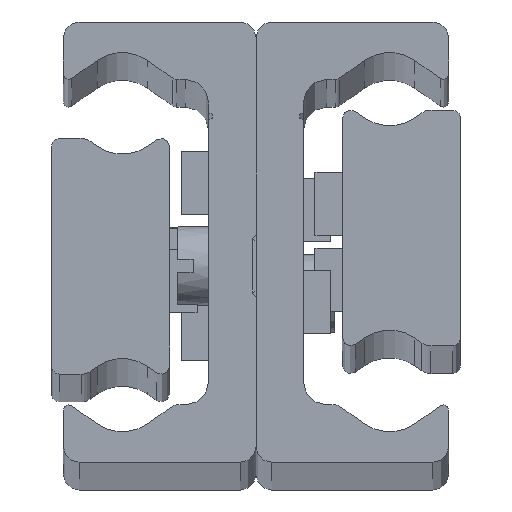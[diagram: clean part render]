
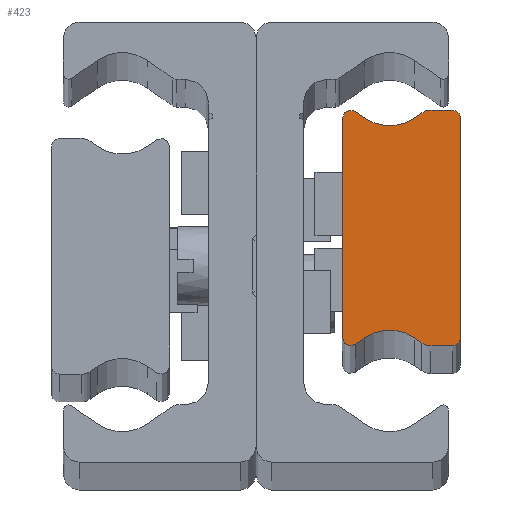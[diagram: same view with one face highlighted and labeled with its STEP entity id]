
A CAD part, top view. The second image highlights one B-rep face of the part: STEP entity #423.
In plain terms, the highlighted planar face has unit normal (0, 0, 1) as drawn and (0, 0, -1) by its records, which use the part's own axes.
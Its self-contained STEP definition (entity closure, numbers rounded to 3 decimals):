
#423 = ADVANCED_FACE( '', ( #995 ), #996, .F. );
#995 = FACE_OUTER_BOUND( '', #1693, .T. );
#996 = PLANE( '', #1694 );
#1693 = EDGE_LOOP( '', ( #2679, #2680, #2681, #2682, #2683, #2684, #2685, #2686, #2687, #2688, #2689, #2690, #2691, #2692, #2693, #2694 ) );
#1694 = AXIS2_PLACEMENT_3D( '', #2695, #2696, #2697 );
#2679 = ORIENTED_EDGE( '', *, *, #3759, .F. );
#2680 = ORIENTED_EDGE( '', *, *, #3833, .F. );
#2681 = ORIENTED_EDGE( '', *, *, #3845, .F. );
#2682 = ORIENTED_EDGE( '', *, *, #3686, .F. );
#2683 = ORIENTED_EDGE( '', *, *, #3846, .F. );
#2684 = ORIENTED_EDGE( '', *, *, #3847, .T. );
#2685 = ORIENTED_EDGE( '', *, *, #3535, .F. );
#2686 = ORIENTED_EDGE( '', *, *, #3848, .F. );
#2687 = ORIENTED_EDGE( '', *, *, #3627, .F. );
#2688 = ORIENTED_EDGE( '', *, *, #3849, .F. );
#2689 = ORIENTED_EDGE( '', *, *, #3850, .F. );
#2690 = ORIENTED_EDGE( '', *, *, #3654, .T. );
#2691 = ORIENTED_EDGE( '', *, *, #3851, .F. );
#2692 = ORIENTED_EDGE( '', *, *, #3852, .F. );
#2693 = ORIENTED_EDGE( '', *, *, #3586, .F. );
#2694 = ORIENTED_EDGE( '', *, *, #3853, .F. );
#2695 = CARTESIAN_POINT( '', ( 0.5, -7., -1010. ) );
#2696 = DIRECTION( '', ( 0., 0., 1. ) );
#2697 = DIRECTION( '', ( 1., 0., 0. ) );
#3535 = EDGE_CURVE( '', #4091, #4093, #4094, .T. );
#3586 = EDGE_CURVE( '', #4179, #4181, #4182, .T. );
#3627 = EDGE_CURVE( '', #4252, #4254, #4255, .T. );
#3654 = EDGE_CURVE( '', #4301, #4299, #4302, .T. );
#3686 = EDGE_CURVE( '', #4354, #4356, #4357, .T. );
#3759 = EDGE_CURVE( '', #4481, #4483, #4484, .T. );
#3833 = EDGE_CURVE( '', #4599, #4481, #4601, .T. );
#3845 = EDGE_CURVE( '', #4356, #4599, #4616, .T. );
#3846 = EDGE_CURVE( '', #4617, #4354, #4618, .T. );
#3847 = EDGE_CURVE( '', #4617, #4093, #4619, .T. );
#3848 = EDGE_CURVE( '', #4254, #4091, #4620, .T. );
#3849 = EDGE_CURVE( '', #4621, #4252, #4622, .T. );
#3850 = EDGE_CURVE( '', #4301, #4621, #4623, .T. );
#3851 = EDGE_CURVE( '', #4624, #4299, #4625, .T. );
#3852 = EDGE_CURVE( '', #4181, #4624, #4626, .T. );
#3853 = EDGE_CURVE( '', #4483, #4179, #4627, .T. );
#4091 = VERTEX_POINT( '', #4923 );
#4093 = VERTEX_POINT( '', #4926 );
#4094 = LINE( '', #4927, #4928 );
#4179 = VERTEX_POINT( '', #5032 );
#4181 = VERTEX_POINT( '', #5035 );
#4182 = LINE( '', #5036, #5037 );
#4252 = VERTEX_POINT( '', #5119 );
#4254 = VERTEX_POINT( '', #5122 );
#4255 = LINE( '', #5123, #5124 );
#4299 = VERTEX_POINT( '', #5183 );
#4301 = VERTEX_POINT( '', #5186 );
#4302 = CIRCLE( '', #5187, 2.778 );
#4354 = VERTEX_POINT( '', #5251 );
#4356 = VERTEX_POINT( '', #5254 );
#4357 = CIRCLE( '', #5255, 1. );
#4481 = VERTEX_POINT( '', #5399 );
#4483 = VERTEX_POINT( '', #5402 );
#4484 = LINE( '', #5403, #5404 );
#4599 = VERTEX_POINT( '', #5544 );
#4601 = CIRCLE( '', #5547, 0.5 );
#4616 = LINE( '', #5563, #5564 );
#4617 = VERTEX_POINT( '', #5565 );
#4618 = LINE( '', #5566, #5567 );
#4619 = CIRCLE( '', #5568, 2.778 );
#4620 = CIRCLE( '', #5569, 0.523 );
#4621 = VERTEX_POINT( '', #5570 );
#4622 = CIRCLE( '', #5571, 0.523 );
#4623 = LINE( '', #5572, #5573 );
#4624 = VERTEX_POINT( '', #5574 );
#4625 = LINE( '', #5575, #5576 );
#4626 = CIRCLE( '', #5577, 1. );
#4627 = CIRCLE( '', #5578, 0.5 );
#4923 = CARTESIAN_POINT( '', ( 6.677, 7.405, -1010. ) );
#4926 = CARTESIAN_POINT( '', ( 6.093, 6.997, -1010. ) );
#4927 = CARTESIAN_POINT( '', ( 6.677, 7.405, -1010. ) );
#4928 = VECTOR( '', #5936, 1000. );
#5032 = CARTESIAN_POINT( '', ( 0.5, -7.5, -1010. ) );
#5035 = CARTESIAN_POINT( '', ( 1.873, -7.5, -1010. ) );
#5036 = CARTESIAN_POINT( '', ( 0.5, -7.5, -1010. ) );
#5037 = VECTOR( '', #6011, 1000. );
#5119 = CARTESIAN_POINT( '', ( 7.5, -6.977, -1010. ) );
#5122 = CARTESIAN_POINT( '', ( 7.5, 6.977, -1010. ) );
#5123 = CARTESIAN_POINT( '', ( 7.5, -6.977, -1010. ) );
#5124 = VECTOR( '', #6082, 1000. );
#5183 = CARTESIAN_POINT( '', ( 2.907, -6.997, -1010. ) );
#5186 = CARTESIAN_POINT( '', ( 6.093, -6.997, -1010. ) );
#5187 = AXIS2_PLACEMENT_3D( '', #6114, #6115, #6116 );
#5251 = CARTESIAN_POINT( '', ( 2.446, 7.319, -1010. ) );
#5254 = CARTESIAN_POINT( '', ( 1.873, 7.5, -1010. ) );
#5255 = AXIS2_PLACEMENT_3D( '', #6166, #6167, #6168 );
#5399 = CARTESIAN_POINT( '', ( 0., 7., -1010. ) );
#5402 = CARTESIAN_POINT( '', ( 0., -7., -1010. ) );
#5403 = CARTESIAN_POINT( '', ( 0., 7., -1010. ) );
#5404 = VECTOR( '', #6304, 1000. );
#5544 = CARTESIAN_POINT( '', ( 0.5, 7.5, -1010. ) );
#5547 = AXIS2_PLACEMENT_3D( '', #6412, #6413, #6414 );
#5563 = CARTESIAN_POINT( '', ( 1.873, 7.5, -1010. ) );
#5564 = VECTOR( '', #6425, 1000. );
#5565 = CARTESIAN_POINT( '', ( 2.907, 6.997, -1010. ) );
#5566 = CARTESIAN_POINT( '', ( 2.907, 6.997, -1010. ) );
#5567 = VECTOR( '', #6426, 1000. );
#5568 = AXIS2_PLACEMENT_3D( '', #6427, #6428, #6429 );
#5569 = AXIS2_PLACEMENT_3D( '', #6430, #6431, #6432 );
#5570 = CARTESIAN_POINT( '', ( 6.677, -7.405, -1010. ) );
#5571 = AXIS2_PLACEMENT_3D( '', #6433, #6434, #6435 );
#5572 = CARTESIAN_POINT( '', ( 6.093, -6.997, -1010. ) );
#5573 = VECTOR( '', #6436, 1000. );
#5574 = CARTESIAN_POINT( '', ( 2.446, -7.319, -1010. ) );
#5575 = CARTESIAN_POINT( '', ( 2.446, -7.319, -1010. ) );
#5576 = VECTOR( '', #6437, 1000. );
#5577 = AXIS2_PLACEMENT_3D( '', #6438, #6439, #6440 );
#5578 = AXIS2_PLACEMENT_3D( '', #6441, #6442, #6443 );
#5936 = DIRECTION( '', ( -0.819, -0.574, 0. ) );
#6011 = DIRECTION( '', ( 1., 0., 0. ) );
#6082 = DIRECTION( '', ( 0., 1., 0. ) );
#6114 = CARTESIAN_POINT( '', ( 4.5, -9.272, -1010. ) );
#6115 = DIRECTION( '', ( 0., 0., 1. ) );
#6116 = DIRECTION( '', ( 1., 0., 0. ) );
#6166 = CARTESIAN_POINT( '', ( 1.873, 6.5, -1010. ) );
#6167 = DIRECTION( '', ( 0., 0., 1. ) );
#6168 = DIRECTION( '', ( 1., 0., 0. ) );
#6304 = DIRECTION( '', ( 0., -1., 0. ) );
#6412 = CARTESIAN_POINT( '', ( 0.5, 7., -1010. ) );
#6413 = DIRECTION( '', ( 0., 0., 1. ) );
#6414 = DIRECTION( '', ( 1., 0., 0. ) );
#6425 = DIRECTION( '', ( -1., 0., 0. ) );
#6426 = DIRECTION( '', ( -0.819, 0.574, 0. ) );
#6427 = CARTESIAN_POINT( '', ( 4.5, 9.272, -1010. ) );
#6428 = DIRECTION( '', ( 0., 0., 1. ) );
#6429 = DIRECTION( '', ( 1., 0., 0. ) );
#6430 = CARTESIAN_POINT( '', ( 6.977, 6.977, -1010. ) );
#6431 = DIRECTION( '', ( 0., 0., 1. ) );
#6432 = DIRECTION( '', ( 1., 0., 0. ) );
#6433 = CARTESIAN_POINT( '', ( 6.977, -6.977, -1010. ) );
#6434 = DIRECTION( '', ( 0., 0., 1. ) );
#6435 = DIRECTION( '', ( 1., 0., 0. ) );
#6436 = DIRECTION( '', ( 0.819, -0.574, 0. ) );
#6437 = DIRECTION( '', ( 0.819, 0.574, 0. ) );
#6438 = CARTESIAN_POINT( '', ( 1.873, -6.5, -1010. ) );
#6439 = DIRECTION( '', ( 0., 0., 1. ) );
#6440 = DIRECTION( '', ( 1., 0., 0. ) );
#6441 = CARTESIAN_POINT( '', ( 0.5, -7., -1010. ) );
#6442 = DIRECTION( '', ( 0., 0., 1. ) );
#6443 = DIRECTION( '', ( 1., 0., 0. ) );
